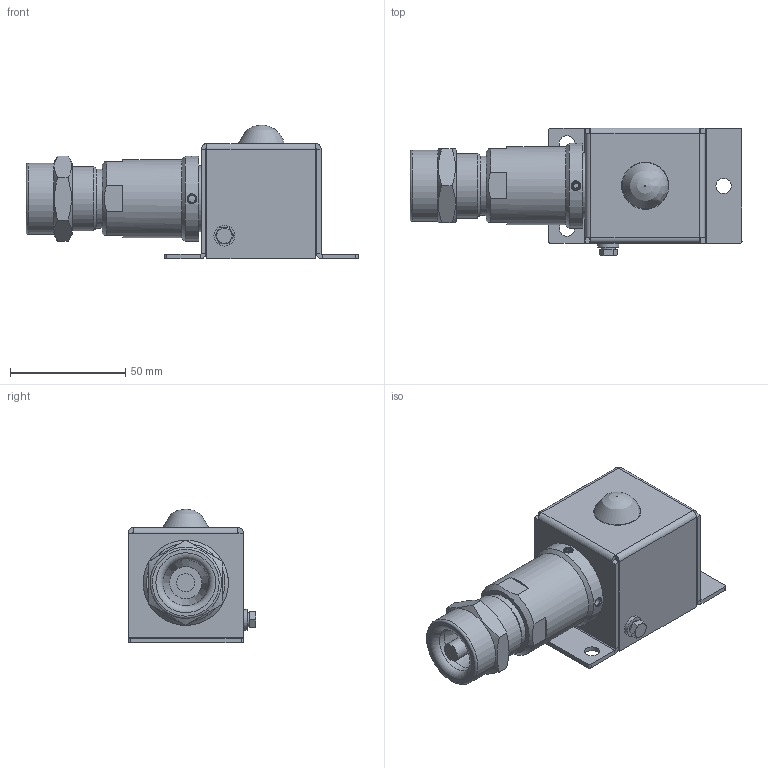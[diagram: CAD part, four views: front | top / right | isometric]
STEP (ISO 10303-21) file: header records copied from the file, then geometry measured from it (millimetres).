
FILE_DESCRIPTION(('STEP AP203'), '1');
FILE_NAME('ﾂﾑ-4ﾌ.stp', '2020-12-10T11:25:14', ($), ($), 'ASCON STEP Converter 1.3', 'Kompas 3D', '');
FILE_SCHEMA(('CONFIG_CONTROL_DESIGN','SUPPORT_RESOURCE_SCHEMA'));
Length unit declared in the file: millimetre
Products named in the file (1): 4
Bounding box: 144.07 x 55.4 x 58 mm (x, y, z)
Volume: 77739.3 mm3; surface area: 57825.5 mm2
Topology: 3 solids, 4 shells, 305 faces, 704 edges, 433 vertices
Faces by surface type: plane 186, cylinder 76, cone 30, bspline 6, torus 5, sphere 2
Full cylindrical faces by diameter (mm): 2.013 x2, 2.5 x4, 3.24 x3, 3.4 x2, 4 x3, 4.3 x1, 4.5 x3, 6.6 x3, 8 x2, 8.5 x1, 9 x1, 12 x1, 13 x1, 20 x1, 20.5 x1, 23.5 x1, 24 x2, 25 x1, 25.8 x1, 26 x1, 26.376 x1, 27.8 x2, 28 x1, 28.5 x1, 28.6 x1, 30.5 x2, 31 x2, 31.5 x1, 34 x1, 37 x1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
Entity records: 11359 total; most frequent: CARTESIAN_POINT 4268, DIRECTION 1454, ORIENTED_EDGE 1404, EDGE_CURVE 702, AXIS2_PLACEMENT_3D 519, VERTEX_POINT 433, LINE 416, VECTOR 416
